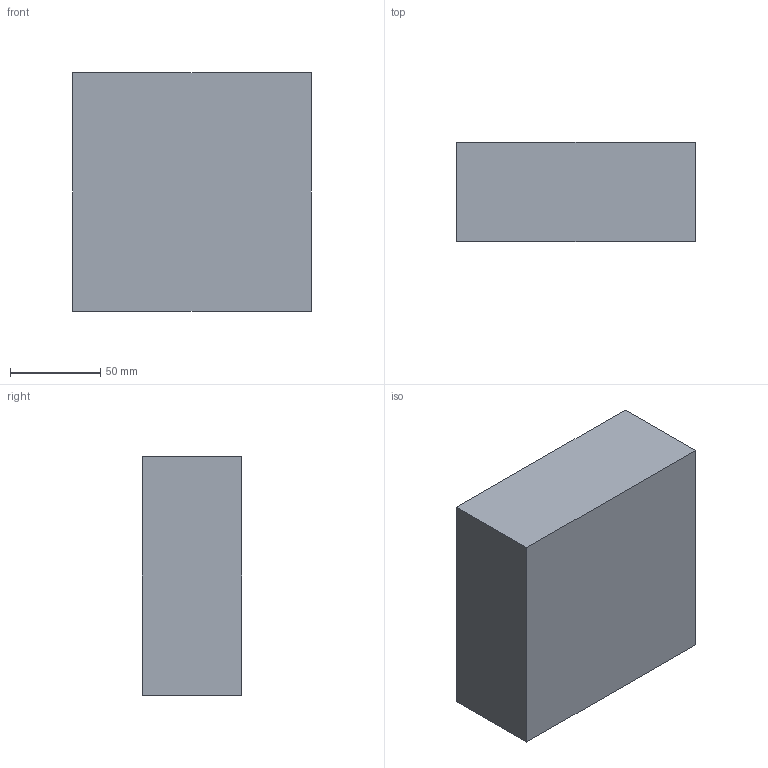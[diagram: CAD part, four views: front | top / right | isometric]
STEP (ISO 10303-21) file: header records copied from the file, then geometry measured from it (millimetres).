
FILE_DESCRIPTION (( 'STEP AP203' ), '1' );
FILE_NAME ('Ej02-v01.STEP', '2012-02-01T12:24:01', ( '' ), ( '' ), 'SwSTEP 2.0', 'SolidWorks 2011', '' );
FILE_SCHEMA (( 'CONFIG_CONTROL_DESIGN' ));
Length unit declared in the file: millimetre
Products named in the file (4): Ej02_inferior_v01; Ej02-v01; Ej02_superior_v01; Ej02_pieza_v01
Assembly tree (3 placements, depth 2):
  Ej02-v01
    Ej02_superior_v01
    Ej02_inferior_v01
    Ej02_pieza_v01
Bounding box: 132 x 55 x 132 mm (x, y, z)
Surface area: 156412.6 mm2
Topology: 3 solids, 3 shells, 18 faces, 36 edges, 24 vertices
Faces by surface type: plane 15, bspline 3
Entity records: 5510 total; most frequent: CARTESIAN_POINT 4753, ORIENTED_EDGE 72, DIRECTION 66, EDGE_CURVE 36, PERSON_AND_ORGANIZATION 35, LOCAL_TIME 26, COORDINATED_UNIVERSAL_TIME_OFFSET 26, CALENDAR_DATE 26
